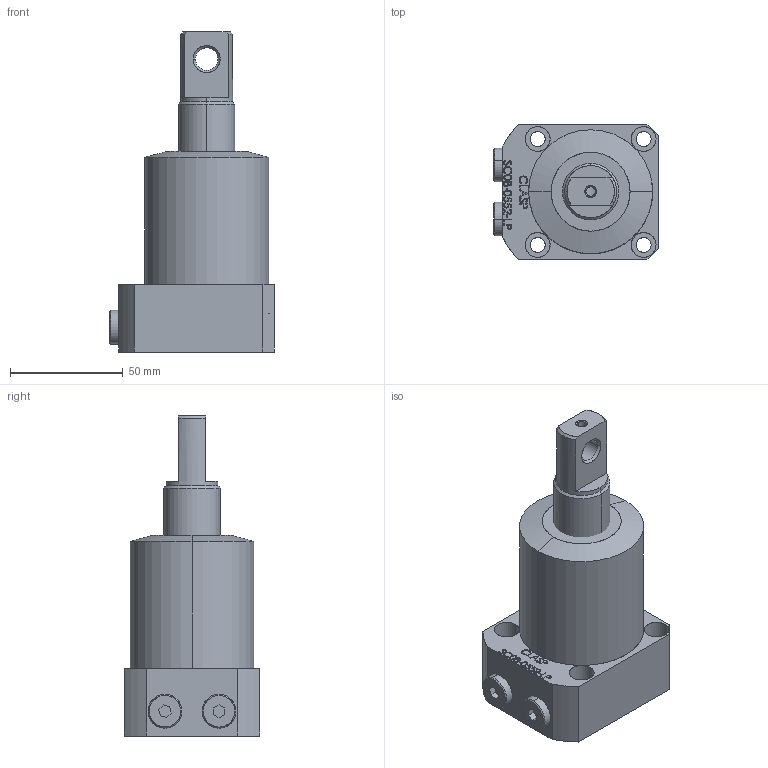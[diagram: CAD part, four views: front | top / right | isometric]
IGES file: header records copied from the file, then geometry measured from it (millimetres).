
Start section: SolidWorks IGES file using analytic representation for surfaces
Global section: file name: D:\karuppas\Clasp\3D model\SWING CYLINDER\Bottom Mounting swing cylinder-P type\SC08-0552-LP\SC08-0552-LP.IGS; native system: SolidWorks 2017; preprocessor: SolidWorks 2017; author: pc; date: 220708.223253; units: millimetre
Bounding box: 73 x 60 x 142 mm (x, y, z)
Surface area: 38101.1 mm2 (no closed solid volume)
Topology: 0 solids, 0 shells, 332 faces, 5335 edges, 5335 vertices
Faces by surface type: bspline 260, revolution 72
